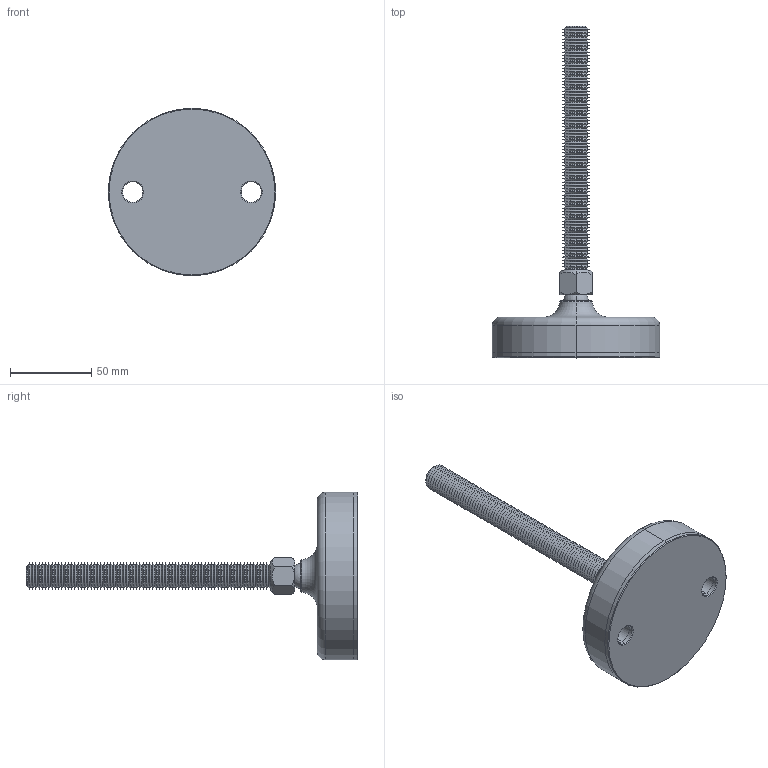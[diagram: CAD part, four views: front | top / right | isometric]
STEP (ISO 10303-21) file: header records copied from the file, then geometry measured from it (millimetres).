
FILE_DESCRIPTION (( 'STEP AP203' ), '1' );
FILE_NAME ('34724.W1701.step', '2019-11-28T22:14:15', ( '' ), ( '' ), 'SwSTEP 2.0', 'SolidWorks 2017', '' );
FILE_SCHEMA (( 'CONFIG_CONTROL_DESIGN' ));
Length unit declared in the file: millimetre
Products named in the file (4): 34724.W1701; Part3_34724.W1701; Part2_34724.W1701; Part1_34724.W1701
Assembly tree (3 placements, depth 2):
  34724.W1701
    Part1_34724.W1701
    Part2_34724.W1701
    Part3_34724.W1701
Bounding box: 103 x 204 x 103 mm (x, y, z)
Volume: 235016.8 mm3; surface area: 57477.5 mm2
Topology: 3 solids, 3 shells, 352 faces, 719 edges, 373 vertices
Faces by surface type: cone 318, plane 14, cylinder 12, sphere 4, torus 4
Entity records: 9466 total; most frequent: DIRECTION 1776, CARTESIAN_POINT 1588, ORIENTED_EDGE 1420, AXIS2_PLACEMENT_3D 720, EDGE_CURVE 710, VERTEX_POINT 368, EDGE_LOOP 364, CIRCLE 362
